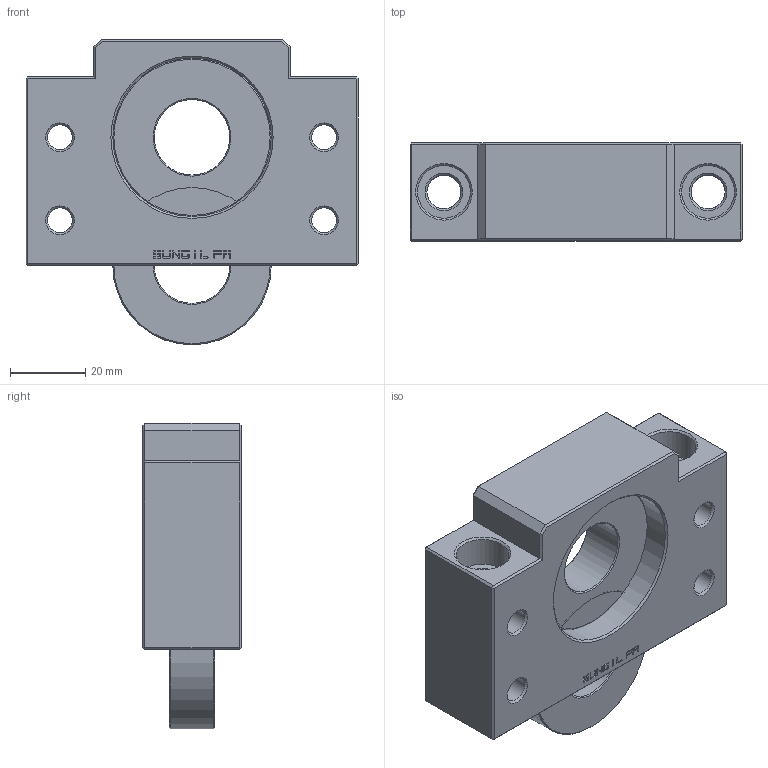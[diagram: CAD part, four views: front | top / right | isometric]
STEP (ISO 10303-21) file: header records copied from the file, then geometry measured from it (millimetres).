
FILE_DESCRIPTION( ( 'Unknown' ), '1' );
FILE_NAME( 'D:/3D/憮んお嶸棉/20060119/SBF TYPE/SBF20/SBF20(ASSM).stp', 'Unknown', ( 'Unknown' ), ( 'Unknown' ), 'XStep 1.0', 'Unknown', ' ' );
FILE_SCHEMA( ( 'CONFIG_CONTROL_DESIGN' ) );
Length unit declared in the file: millimetre
Products named in the file (3): Assem1; SBF20(housing); bearing(6004ZZ)
Bounding box: 88 x 26 x 81 mm (x, y, z)
Surface area: 52067.7 mm2
Topology: 4 solids, 4 shells, 790 faces, 2162 edges, 1420 vertices
Faces by surface type: plane 416, cylinder 334, cone 40
Full cylindrical faces by diameter (mm): 6.6 x16, 9 x4, 14 x4, 20 x2, 42 x4
Entity records: 12988 total; most frequent: CARTESIAN_POINT 2658, DIRECTION 2172, ORIENTED_EDGE 2076, EDGE_CURVE 1038, AXIS2_PLACEMENT_3D 744, VERTEX_POINT 702, LINE 684, VECTOR 684
